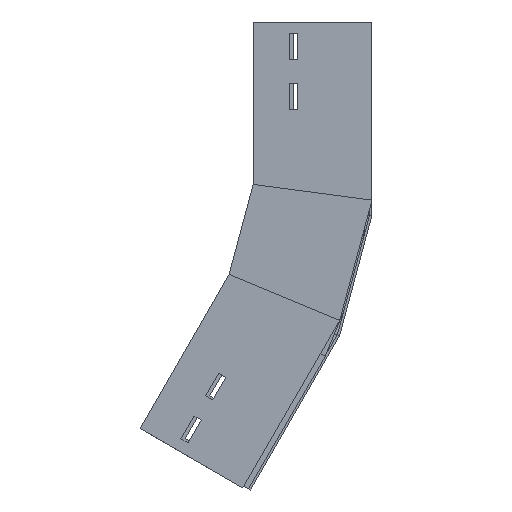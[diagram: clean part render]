
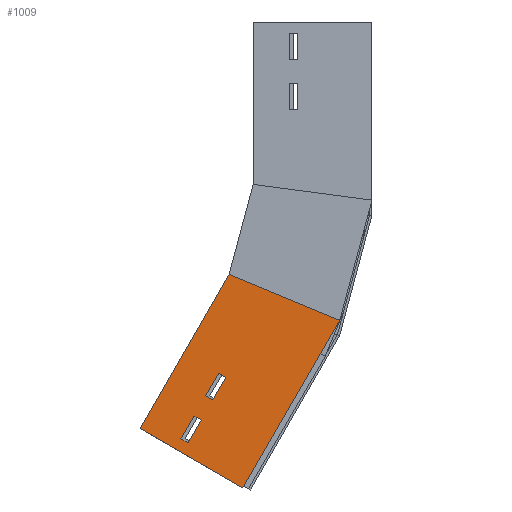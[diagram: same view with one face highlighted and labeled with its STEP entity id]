
A CAD part, left-side view. The second image highlights one B-rep face of the part: STEP entity #1009.
In plain terms, the highlighted planar face has unit normal (-1, 0, 0) as drawn and (1, 0, 0) by its records, which use the part's own axes.
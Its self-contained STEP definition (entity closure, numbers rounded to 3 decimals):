
#32 = LINE ( 'NONE', #928, #1084 ) ;
#35 = CARTESIAN_POINT ( 'NONE',  ( 0., 0., 0. ) ) ;
#55 = CARTESIAN_POINT ( 'NONE',  ( 0., 66., -9.835 ) ) ;
#73 = CARTESIAN_POINT ( 'NONE',  ( 0., 59., -51.505 ) ) ;
#75 = CARTESIAN_POINT ( 'NONE',  ( 0., 59., -73.505 ) ) ;
#83 = DIRECTION ( 'NONE',  ( 0., 0., 1. ) ) ;
#89 = LINE ( 'NONE', #97, #961 ) ;
#97 = CARTESIAN_POINT ( 'NONE',  ( 0., 66., -9.835 ) ) ;
#124 = VERTEX_POINT ( 'NONE', #680 ) ;
#131 = VERTEX_POINT ( 'NONE', #783 ) ;
#141 = ORIENTED_EDGE ( 'NONE', *, *, #595, .F. ) ;
#174 = VECTOR ( 'NONE', #1073, 1000. ) ;
#210 = DIRECTION ( 'NONE',  ( 0., -1., 0. ) ) ;
#278 = FACE_OUTER_BOUND ( 'NONE', #1178, .T. ) ;
#282 = VERTEX_POINT ( 'NONE', #620 ) ;
#283 = CARTESIAN_POINT ( 'NONE',  ( 0., 21.094, -160.223 ) ) ;
#292 = EDGE_CURVE ( 'NONE', #1396, #1379, #516, .T. ) ;
#312 = VECTOR ( 'NONE', #744, 1000. ) ;
#331 = VECTOR ( 'NONE', #788, 1000. ) ;
#356 = ORIENTED_EDGE ( 'NONE', *, *, #612, .T. ) ;
#380 = ORIENTED_EDGE ( 'NONE', *, *, #480, .T. ) ;
#384 = VERTEX_POINT ( 'NONE', #1483 ) ;
#406 = VERTEX_POINT ( 'NONE', #688 ) ;
#415 = FACE_BOUND ( 'NONE', #468, .T. ) ;
#435 = DIRECTION ( 'NONE',  ( 0., 0., 1. ) ) ;
#437 = CARTESIAN_POINT ( 'NONE',  ( 0., 66., -51.505 ) ) ;
#440 = VERTEX_POINT ( 'NONE', #55 ) ;
#468 = EDGE_LOOP ( 'NONE', ( #496, #356, #860, #1159 ) ) ;
#480 = EDGE_CURVE ( 'NONE', #1041, #1475, #547, .T. ) ;
#484 = CARTESIAN_POINT ( 'NONE',  ( 0., 59., -31.835 ) ) ;
#489 = DIRECTION ( 'NONE',  ( 0., 0., -1. ) ) ;
#496 = ORIENTED_EDGE ( 'NONE', *, *, #738, .T. ) ;
#499 = CARTESIAN_POINT ( 'NONE',  ( 0., 59., -51.505 ) ) ;
#516 = LINE ( 'NONE', #963, #626 ) ;
#537 = CARTESIAN_POINT ( 'NONE',  ( 0., 59., -9.835 ) ) ;
#541 = VECTOR ( 'NONE', #962, 1000. ) ;
#547 = LINE ( 'NONE', #73, #1273 ) ;
#595 = EDGE_CURVE ( 'NONE', #988, #384, #32, .T. ) ;
#609 = LINE ( 'NONE', #819, #1292 ) ;
#612 = EDGE_CURVE ( 'NONE', #440, #1396, #609, .T. ) ;
#620 = CARTESIAN_POINT ( 'NONE',  ( 0., 66., -73.505 ) ) ;
#626 = VECTOR ( 'NONE', #700, 1000. ) ;
#645 = ORIENTED_EDGE ( 'NONE', *, *, #920, .F. ) ;
#647 = EDGE_CURVE ( 'NONE', #1475, #1066, #855, .T. ) ;
#651 = LINE ( 'NONE', #35, #1342 ) ;
#680 = CARTESIAN_POINT ( 'NONE',  ( 0., 59., -9.835 ) ) ;
#688 = CARTESIAN_POINT ( 'NONE',  ( 0., 0., 0. ) ) ;
#700 = DIRECTION ( 'NONE',  ( 0., -1., 0. ) ) ;
#702 = EDGE_CURVE ( 'NONE', #282, #1041, #1361, .T. ) ;
#727 = DIRECTION ( 'NONE',  ( 0., 0., 1. ) ) ;
#733 = CARTESIAN_POINT ( 'NONE',  ( 0., 100., 0. ) ) ;
#734 = LINE ( 'NONE', #537, #1372 ) ;
#738 = EDGE_CURVE ( 'NONE', #124, #440, #89, .T. ) ;
#744 = DIRECTION ( 'NONE',  ( 0., 0., -1. ) ) ;
#762 = ORIENTED_EDGE ( 'NONE', *, *, #806, .T. ) ;
#783 = CARTESIAN_POINT ( 'NONE',  ( 0., 0., -163. ) ) ;
#785 = ORIENTED_EDGE ( 'NONE', *, *, #1473, .F. ) ;
#788 = DIRECTION ( 'NONE',  ( 0., 0., -1. ) ) ;
#806 = EDGE_CURVE ( 'NONE', #406, #131, #1476, .T. ) ;
#819 = CARTESIAN_POINT ( 'NONE',  ( 0., 66., -9.835 ) ) ;
#832 = DIRECTION ( 'NONE',  ( 0., 0., -1. ) ) ;
#843 = CARTESIAN_POINT ( 'NONE',  ( 0., 66., -51.505 ) ) ;
#852 = PLANE ( 'NONE',  #919 ) ;
#855 = LINE ( 'NONE', #437, #541 ) ;
#859 = CARTESIAN_POINT ( 'NONE',  ( 0., 0., 0. ) ) ;
#860 = ORIENTED_EDGE ( 'NONE', *, *, #292, .T. ) ;
#886 = ORIENTED_EDGE ( 'NONE', *, *, #1166, .T. ) ;
#908 = CARTESIAN_POINT ( 'NONE',  ( 0., 0., 0. ) ) ;
#919 = AXIS2_PLACEMENT_3D ( 'NONE', #859, #1334, #727 ) ;
#920 = EDGE_CURVE ( 'NONE', #384, #131, #1075, .T. ) ;
#928 = CARTESIAN_POINT ( 'NONE',  ( 0., 100., 0. ) ) ;
#961 = VECTOR ( 'NONE', #1150, 1000. ) ;
#962 = DIRECTION ( 'NONE',  ( 0., 1., 0. ) ) ;
#963 = CARTESIAN_POINT ( 'NONE',  ( 0., 66., -31.835 ) ) ;
#980 = DIRECTION ( 'NONE',  ( 0., 1., 0. ) ) ;
#988 = VERTEX_POINT ( 'NONE', #733 ) ;
#1009 = ADVANCED_FACE ( 'NONE', ( #1192, #278, #415 ), #852, .F. ) ;
#1041 = VERTEX_POINT ( 'NONE', #75 ) ;
#1054 = CARTESIAN_POINT ( 'NONE',  ( 0., 66., -31.835 ) ) ;
#1066 = VERTEX_POINT ( 'NONE', #1118 ) ;
#1073 = DIRECTION ( 'NONE',  ( 0., -0.991, -0.131 ) ) ;
#1075 = LINE ( 'NONE', #283, #174 ) ;
#1084 = VECTOR ( 'NONE', #489, 1000. ) ;
#1096 = ORIENTED_EDGE ( 'NONE', *, *, #702, .T. ) ;
#1118 = CARTESIAN_POINT ( 'NONE',  ( 0., 66., -51.505 ) ) ;
#1120 = CARTESIAN_POINT ( 'NONE',  ( 0., 66., -73.505 ) ) ;
#1124 = EDGE_CURVE ( 'NONE', #1379, #124, #734, .T. ) ;
#1150 = DIRECTION ( 'NONE',  ( 0., 1., 0. ) ) ;
#1159 = ORIENTED_EDGE ( 'NONE', *, *, #1124, .T. ) ;
#1166 = EDGE_CURVE ( 'NONE', #1066, #282, #1232, .T. ) ;
#1178 = EDGE_LOOP ( 'NONE', ( #141, #785, #762, #645 ) ) ;
#1192 = FACE_BOUND ( 'NONE', #1250, .T. ) ;
#1218 = ORIENTED_EDGE ( 'NONE', *, *, #647, .T. ) ;
#1232 = LINE ( 'NONE', #843, #312 ) ;
#1246 = VECTOR ( 'NONE', #210, 1000. ) ;
#1250 = EDGE_LOOP ( 'NONE', ( #1218, #886, #1096, #380 ) ) ;
#1273 = VECTOR ( 'NONE', #83, 1000. ) ;
#1292 = VECTOR ( 'NONE', #832, 1000. ) ;
#1334 = DIRECTION ( 'NONE',  ( -1., 0., 0. ) ) ;
#1342 = VECTOR ( 'NONE', #980, 1000. ) ;
#1361 = LINE ( 'NONE', #1120, #1246 ) ;
#1372 = VECTOR ( 'NONE', #435, 1000. ) ;
#1379 = VERTEX_POINT ( 'NONE', #484 ) ;
#1396 = VERTEX_POINT ( 'NONE', #1054 ) ;
#1473 = EDGE_CURVE ( 'NONE', #406, #988, #651, .T. ) ;
#1475 = VERTEX_POINT ( 'NONE', #499 ) ;
#1476 = LINE ( 'NONE', #908, #331 ) ;
#1483 = CARTESIAN_POINT ( 'NONE',  ( 0., 100., -149.835 ) ) ;
